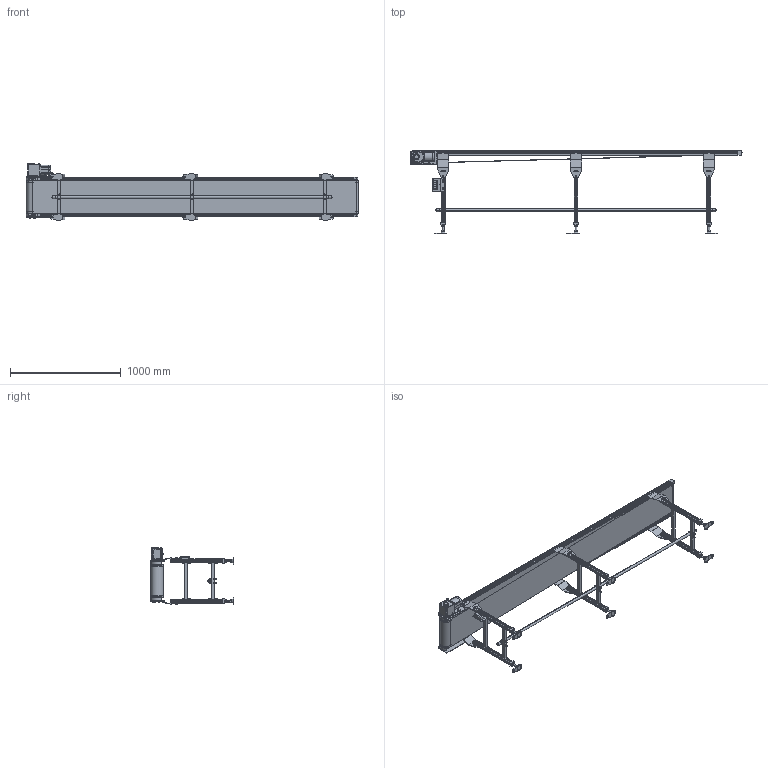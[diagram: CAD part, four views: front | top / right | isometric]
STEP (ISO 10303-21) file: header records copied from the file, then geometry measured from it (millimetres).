
FILE_DESCRIPTION( (''), '2;1');
FILE_NAME ('MB23-HS-309-300-300-L-K-100-O.stp','2025-02-17T10:43:05',(''),(''),'spGate 20.6.2 (****-****-****-****)','','');
FILE_SCHEMA (('AUTOMOTIVE_DESIGN'));
Length unit declared in the file: millimetre
Products named in the file (57): NewModel; MB23-HS-300-3000-L; TEMP_X_T-prt0; TEMP_X_T-prt1; TEMP_X_T-prt2; TEMP_X_T-prt3; TEMP_X_T-prt4; TEMP_X_T-prt5; TEMP_X_T-prt6; TEMP_X_T-prt7; TEMP_X_T-prt8; TEMP_X_T-prt9; TEMP_X_T-prt10; TEMP_X_T-prt11; TEMP_X_T-prt12; TEMP_X_T-prt13; TEMP_X_T-prt14; TEMP_X_T-prt15; TEMP_X_T-prt16; TEMP_X_T-prt17; TEMP_X_T-prt18; TEMP_X_T-prt19; TEMP_X_T-prt20; TEMP_X_T-prt21; TEMP_X_T-prt22; TEMP_X_T-prt23; TEMP_X_T-prt24; TEMP_X_T-prt25; TEMP_X_T-prt26; TEMP_X_T-prt27; TEMP_X_T-prt28; TEMP_X_T-prt29; TEMP_X_T-prt30; TEMP_X_T-prt31; TEMP_X_T-prt32; TEMP_X_T-prt33; TEMP_X_T-prt34; TEMP_X_T-prt35; TEMP_X_T-prt36; TEMP_X_T-prt37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
Assembly tree (56 placements, depth 3):
  NewModel
    MB23-HS-300-3000-L
      TEMP_X_T-prt0
      TEMP_X_T-prt1
      TEMP_X_T-prt2
      TEMP_X_T-prt3
      TEMP_X_T-prt4
      TEMP_X_T-prt5
      TEMP_X_T-prt6
      TEMP_X_T-prt7
      TEMP_X_T-prt8
      TEMP_X_T-prt9
      TEMP_X_T-prt10
      TEMP_X_T-prt11
      TEMP_X_T-prt12
      TEMP_X_T-prt13
      TEMP_X_T-prt14
      TEMP_X_T-prt15
      TEMP_X_T-prt16
      TEMP_X_T-prt17
      TEMP_X_T-prt18
      TEMP_X_T-prt19
      TEMP_X_T-prt20
      TEMP_X_T-prt21
      TEMP_X_T-prt22
      TEMP_X_T-prt23
      TEMP_X_T-prt24
      TEMP_X_T-prt25
      TEMP_X_T-prt26
      TEMP_X_T-prt27
      TEMP_X_T-prt28
      TEMP_X_T-prt29
      TEMP_X_T-prt30
      TEMP_X_T-prt31
      TEMP_X_T-prt32
      TEMP_X_T-prt33
      TEMP_X_T-prt34
      TEMP_X_T-prt35
      TEMP_X_T-prt36
      TEMP_X_T-prt37
      TEMP_X_T-prt38
      TEMP_X_T-prt39
      TEMP_X_T-prt40
      TEMP_X_T-prt41
      TEMP_X_T-prt42
      TEMP_X_T-prt43
      TEMP_X_T-prt44
      TEMP_X_T-prt45
      TEMP_X_T-prt46
      TEMP_X_T-prt47
      TEMP_X_T-prt48
      TEMP_X_T-prt49
      TEMP_X_T-prt50
      TEMP_X_T-prt51
      TEMP_X_T-prt52
      TEMP_X_T-prt53
      TEMP_X_T-prt54
Bounding box: 3001.41 x 752.7 x 518 mm (x, y, z)
Volume: 18454504.5 mm3; surface area: 9106482.3 mm2
Topology: 55 solids, 55 shells, 2785 faces, 7056 edges, 4584 vertices
Faces by surface type: plane 1931, cylinder 717, bspline 129, sphere 8
Entity records: 144802 total; most frequent: CARTESIAN_POINT 19570, ORIENTED_EDGE 14072, DIRECTION 13527, COLOUR_RGB 9876, PRESENTATION_STYLE_ASSIGNMENT 9876, STYLED_ITEM 9876, EDGE_CURVE 7036, DRAUGHTING_PRE_DEFINED_CURVE_FONT 7036
